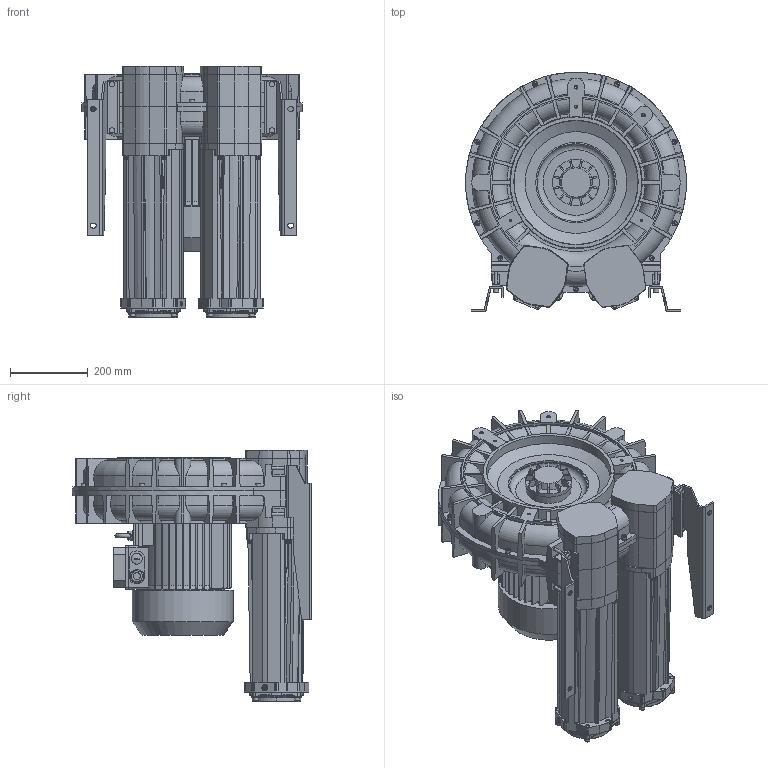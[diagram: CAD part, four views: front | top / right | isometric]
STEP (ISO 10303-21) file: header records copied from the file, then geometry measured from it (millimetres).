
FILE_DESCRIPTION (( 'STEP AP203' ), '1' );
FILE_NAME ('STP-L_e_11_MD_MOR_IE3WR_132_7.5kW-3_24-00.step', '2025-01-14T09:21:32', ( '' ), ( '' ), 'SwSTEP 2.0', 'SolidWorks 2024', '' );
FILE_SCHEMA (( 'CONFIG_CONTROL_DESIGN' ));
Length unit declared in the file: millimetre
Products named in the file (1): STP-L_e_11_MD_MOR_IE3WR_132_7.5kW-3_24-00
Bounding box: 568 x 616 x 647 mm (x, y, z)
Volume: 62393802.1 mm3; surface area: 3484129.2 mm2
Topology: 82 solids, 82 shells, 5614 faces, 14355 edges, 8922 vertices
Faces by surface type: plane 1910, cylinder 1844, bspline 826, torus 500, cone 477, sphere 57
Full cylindrical faces by diameter (mm): 6.8 x24, 7.5 x4, 8 x33, 8.4 x29, 8.5 x10, 8.566 x2, 8.8 x4, 9.98 x2, 10 x3, 11 x8, 12 x2, 12.02 x2, 13 x46, 14 x14, 16 x4, 16.5 x2, 18 x1, 19 x1, 20 x2, 21.4 x1, 24 x4, 25 x3, 28 x1, 110.4 x2, 115 x2, 120 x1, 128 x2, 207 x3, 213 x1, 259 x1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
Entity records: 268795 total; most frequent: CARTESIAN_POINT 143804, ORIENTED_EDGE 27316, DIRECTION 23970, EDGE_CURVE 13658, AXIS2_PLACEMENT_3D 9216, VERTEX_POINT 8719, EDGE_LOOP 6269, FACE_OUTER_BOUND 5904
